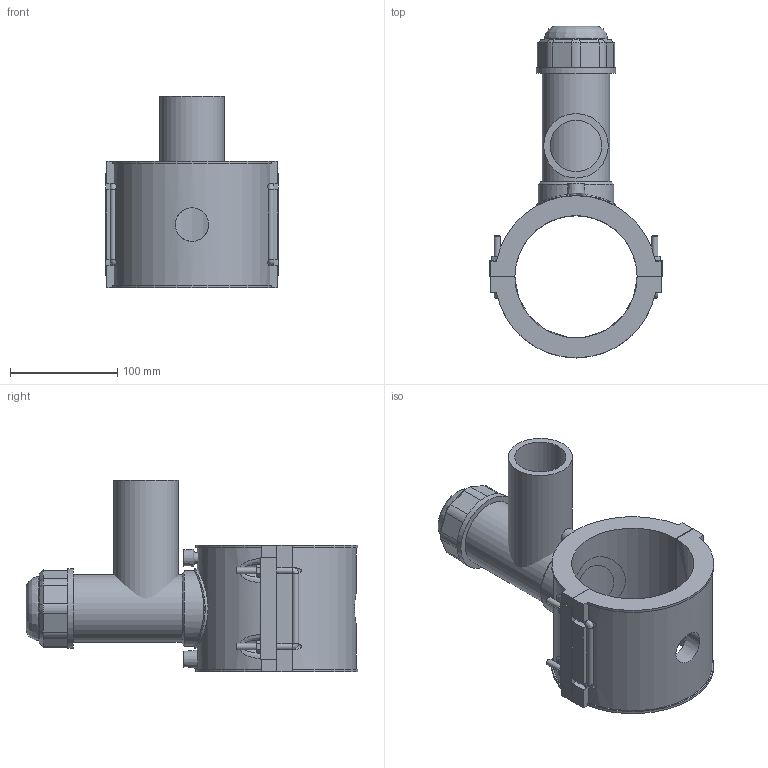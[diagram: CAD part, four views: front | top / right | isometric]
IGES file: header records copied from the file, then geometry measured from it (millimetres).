
Global section: file name: 5963BBP3040020.ipt; native system: Autodesk Inventor 2019; preprocessor: unknown; author: KIM; date: 20210830.101536; units: inch
Bounding box: 161 x 309.74 x 178.94 mm (x, y, z)
Volume: 1317901.8 mm3; surface area: 247544.6 mm2
Topology: 5 solids, 6 shells, 195 faces, 480 edges, 304 vertices
Faces by surface type: plane 112, cylinder 38, revolution 17, cone 15, bspline 13
Full cylindrical faces by diameter (mm): 4 x2, 6 x8, 59.332 x1, 60.1 x1, 63.04 x1, 70.457 x1, 74.165 x2
